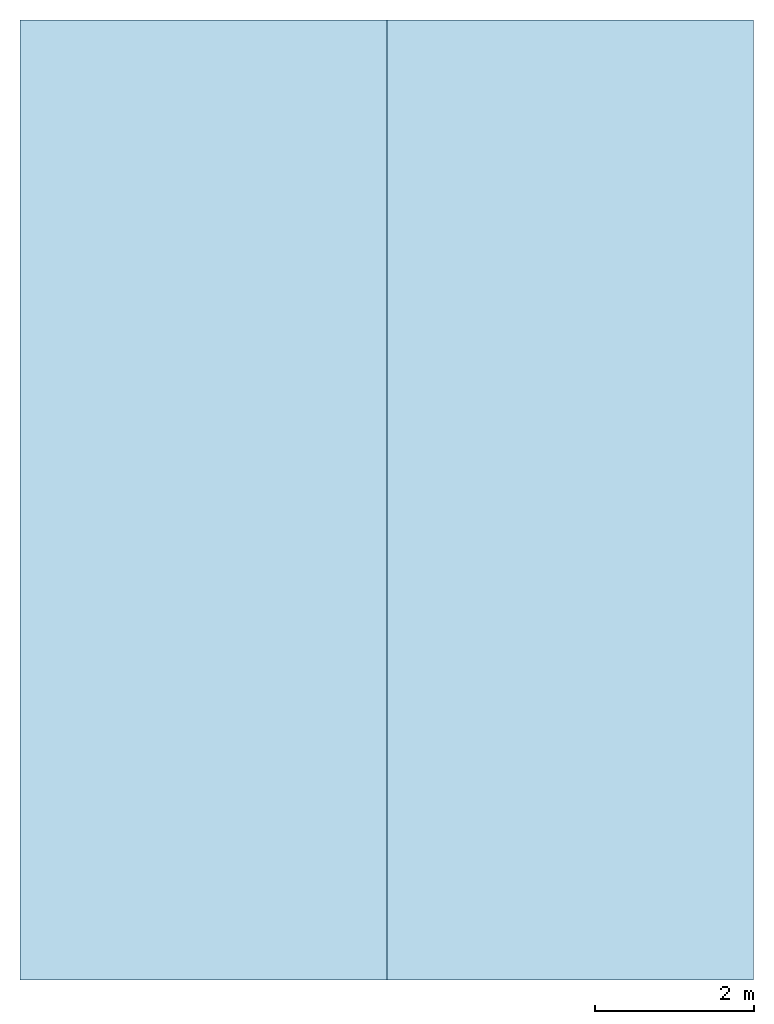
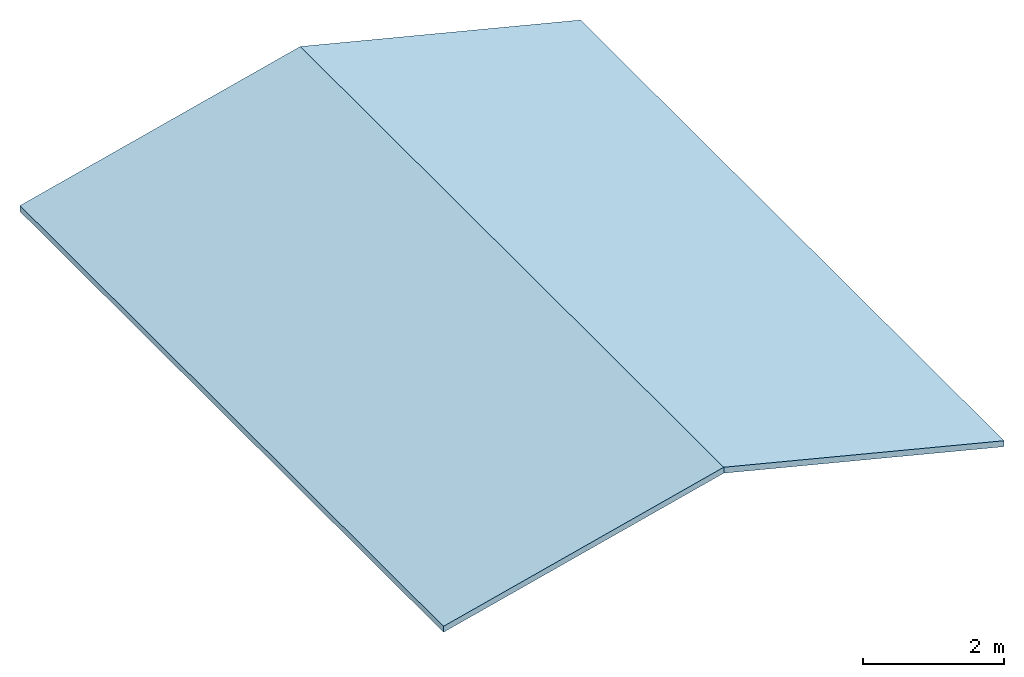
# One storey: 2 slabs, 1 element without a shape of its own.
"""IFC2X3 building model written with IfcOpenShell, lengths in metres."""

from ifc_helpers import new_model, entity, si_unit, converted_unit, derived_unit, direction, frame, frame_2d, origin, place, context, subcontext, project, spatial, rectangle, extrude, material, layer, layer_set, type_object, element, aggregate, save


model = new_model("IFC2X3")

# Units and contexts
model_context = context("Model", 3, precision=1e-05, world=origin(), true_north=direction((6.123031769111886e-17, 1.0)))
body_context = subcontext(model_context, "Body", "Model", "MODEL_VIEW")
ifc_project = project(units=[si_unit("LENGTHUNIT", "METRE"), si_unit("AREAUNIT", "SQUARE_METRE"), si_unit("VOLUMEUNIT", "CUBIC_METRE"), converted_unit("PLANEANGLEUNIT", "DEGREE", entity("IfcRatioMeasure", 0.017453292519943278), si_unit("PLANEANGLEUNIT", "RADIAN"), dimensions=[0, 0, 0, 0, 0, 0, 0]), si_unit("MASSUNIT", "GRAM", prefix="KILO"), derived_unit("MASSDENSITYUNIT", [(si_unit("MASSUNIT", "GRAM", prefix="KILO"), 1), (si_unit("LENGTHUNIT", "METRE"), -3)]), derived_unit("IONCONCENTRATIONUNIT", [(si_unit("MASSUNIT", "GRAM", prefix="KILO"), 1), (si_unit("LENGTHUNIT", "METRE"), -3)]), derived_unit("MOMENTOFINERTIAUNIT", [(si_unit("LENGTHUNIT", "METRE"), 4)]), si_unit("TIMEUNIT", "SECOND"), si_unit("FREQUENCYUNIT", "HERTZ"), si_unit("THERMODYNAMICTEMPERATUREUNIT", "DEGREE_CELSIUS"), derived_unit("THERMALTRANSMITTANCEUNIT", [(si_unit("MASSUNIT", "GRAM", prefix="KILO"), 1), (si_unit("THERMODYNAMICTEMPERATUREUNIT", "KELVIN"), -1), (si_unit("TIMEUNIT", "SECOND"), -3)]), derived_unit("THERMALCONDUCTANCEUNIT", [(si_unit("MASSUNIT", "GRAM", prefix="KILO"), 1), (si_unit("THERMODYNAMICTEMPERATUREUNIT", "KELVIN"), -1), (si_unit("TIMEUNIT", "SECOND"), -3), (si_unit("LENGTHUNIT", "METRE"), 1)]), derived_unit("VOLUMETRICFLOWRATEUNIT", [(si_unit("LENGTHUNIT", "METRE"), 3), (si_unit("TIMEUNIT", "SECOND"), -1)]), derived_unit("MASSFLOWRATEUNIT", [(si_unit("MASSUNIT", "GRAM", prefix="KILO"), 1), (si_unit("TIMEUNIT", "SECOND"), -1)]), derived_unit("ROTATIONALFREQUENCYUNIT", [(si_unit("TIMEUNIT", "SECOND"), -1)]), si_unit("ELECTRICCURRENTUNIT", "AMPERE"), si_unit("ELECTRICVOLTAGEUNIT", "VOLT"), si_unit("POWERUNIT", "WATT"), si_unit("FORCEUNIT", "NEWTON", prefix="KILO"), si_unit("ILLUMINANCEUNIT", "LUX"), si_unit("LUMINOUSFLUXUNIT", "LUMEN"), si_unit("LUMINOUSINTENSITYUNIT", "CANDELA"), derived_unit("USERDEFINED", [(si_unit("MASSUNIT", "GRAM", prefix="KILO"), -1), (si_unit("LENGTHUNIT", "METRE"), -2), (si_unit("TIMEUNIT", "SECOND"), 3), (si_unit("LUMINOUSFLUXUNIT", "LUMEN"), 1)]), derived_unit("USERDEFINED", [(si_unit("MASSUNIT", "GRAM", prefix="KILO"), 1), (si_unit("TIMEUNIT", "SECOND"), -3), (si_unit("LENGTHUNIT", "METRE"), 3), (si_unit("ELECTRICCURRENTUNIT", "AMPERE"), -2)]), derived_unit("SOUNDPOWERUNIT", [(si_unit("MASSUNIT", "GRAM", prefix="KILO"), 1), (si_unit("TIMEUNIT", "SECOND"), -3), (si_unit("LENGTHUNIT", "METRE"), 2)]), derived_unit("SOUNDPRESSUREUNIT", [(si_unit("MASSUNIT", "GRAM", prefix="KILO"), 1), (si_unit("LENGTHUNIT", "METRE"), -1), (si_unit("TIMEUNIT", "SECOND"), -2)]), derived_unit("LINEARVELOCITYUNIT", [(si_unit("LENGTHUNIT", "METRE"), 1), (si_unit("TIMEUNIT", "SECOND"), -1)]), si_unit("PRESSUREUNIT", "PASCAL"), derived_unit("USERDEFINED", [(si_unit("MASSUNIT", "GRAM", prefix="KILO"), 1), (si_unit("LENGTHUNIT", "METRE"), -2), (si_unit("TIMEUNIT", "SECOND"), -2)]), derived_unit("LINEARFORCEUNIT", [(si_unit("MASSUNIT", "GRAM", prefix="KILO"), 1), (si_unit("TIMEUNIT", "SECOND"), -2)]), derived_unit("PLANARFORCEUNIT", [(si_unit("MASSUNIT", "GRAM", prefix="KILO"), 1), (si_unit("LENGTHUNIT", "METRE"), -1), (si_unit("TIMEUNIT", "SECOND"), -2)]), derived_unit("SPECIFICHEATCAPACITYUNIT", [(si_unit("THERMODYNAMICTEMPERATUREUNIT", "KELVIN"), -1), (si_unit("LENGTHUNIT", "METRE"), 2), (si_unit("TIMEUNIT", "SECOND"), -2)]), derived_unit("HEATINGVALUEUNIT", [(si_unit("LENGTHUNIT", "METRE"), 2), (si_unit("TIMEUNIT", "SECOND"), -2)]), derived_unit("VAPORPERMEABILITYUNIT", [(si_unit("LENGTHUNIT", "METRE"), -1), (si_unit("TIMEUNIT", "SECOND"), 1)]), derived_unit("DYNAMICVISCOSITYUNIT", [(si_unit("MASSUNIT", "GRAM", prefix="KILO"), 1), (si_unit("TIMEUNIT", "SECOND"), -1), (si_unit("LENGTHUNIT", "METRE"), -1)]), derived_unit("THERMALEXPANSIONCOEFFICIENTUNIT", [(si_unit("THERMODYNAMICTEMPERATUREUNIT", "KELVIN"), -1)]), derived_unit("MODULUSOFELASTICITYUNIT", [(si_unit("MASSUNIT", "GRAM", prefix="KILO"), 1), (si_unit("LENGTHUNIT", "METRE"), -1), (si_unit("TIMEUNIT", "SECOND"), -2)]), derived_unit("ISOTHERMALMOISTURECAPACITYUNIT", [(si_unit("LENGTHUNIT", "METRE"), 3), (si_unit("MASSUNIT", "GRAM", prefix="KILO"), -1)]), derived_unit("MOISTUREDIFFUSIVITYUNIT", [(si_unit("TIMEUNIT", "SECOND"), -1), (si_unit("LENGTHUNIT", "METRE"), 2)])], contexts=[model_context])

# Site, building, storey
site_placement = place(None, frame((1.2553507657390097, -0.6266432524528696, -1.0397761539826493), z_axis=(0.0, 0.0, 1.0), x_axis=(-1.0, 0.0, 0.0)))
site = spatial("IfcSite", under=ifc_project, at=site_placement, Name="Default", CompositionType="ELEMENT")
building_placement = place(site_placement, origin())
building = spatial("IfcBuilding", under=site, at=building_placement, Name="MAISON D'HABITATION", CompositionType="ELEMENT")
storey_placement = place(building_placement, frame((0.0, 0.0, 6.06977615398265)))
storey = spatial("IfcBuildingStorey", under=building, at=storey_placement, Name="Niveau toiture etage", CompositionType="ELEMENT", Elevation=6.06977615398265)

# Roof, slabs
ifc_material = material(Name="38f2b84c_59a0_493e_94eb_272e1fd0c87f")
ifc_layer = layer(ifc_material, 0.1)
ifc_layer_set = layer_set([ifc_layer], Name="Toit de base:Toit Tuile 100mm")
roof_placement = place(storey_placement, frame((-4.879866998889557, -8.683816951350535, -2.2384603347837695)))
roof = element("IfcRoof", 1, at=roof_placement, inside=storey, material=ifc_layer_set, Name="Toit de base:Toit Tuile 100mm", ObjectType="Toit de base:Toit Tuile 100mm", ShapeType="NOTDEFINED")
slab_type = type_object("IfcSlabType", Name="Toit de base:Toit Tuile 100mm", PredefinedType="ROOF")
slab_1_placement = place(roof_placement, origin())
slab_1 = element("IfcSlab", 2, at=slab_1_placement, type_object=slab_type, material=ifc_layer_set, Name="Toit de base:Toit Tuile 100mm", ObjectType="Toit de base:Toit Tuile 100mm", PredefinedType="ROOF", context=body_context, shape_type="SweptSolid", body=[
    extrude(rectangle(XDim=4.741649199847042, YDim=12.040000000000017, at=frame_2d((0.0, 8.881784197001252e-16), x_axis=(1.0, 0.0))), frame((2.2999999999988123, 6.02000000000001, 0.5751602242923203), z_axis=(-0.24259923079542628, 0.0, 0.9701265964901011), x_axis=(0.9701265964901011, 0.0, 0.24259923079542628)), (0.24259923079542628, 0.0, 0.9701265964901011), 0.10307933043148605),
])
slab_2_placement = place(roof_placement, origin())
slab_2 = element("IfcSlab", 3, at=slab_2_placement, type_object=slab_type, material=ifc_layer_set, Name="Toit de base:Toit Tuile 100mm", ObjectType="Toit de base:Toit Tuile 100mm", PredefinedType="ROOF", context=body_context, shape_type="SweptSolid", body=[
    extrude(rectangle(XDim=4.741649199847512, YDim=12.040000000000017, at=frame_2d((4.440892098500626e-16, 8.881784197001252e-16), x_axis=(1.0, 0.0))), frame((6.899999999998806, 6.020000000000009, 0.5751602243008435), z_axis=(0.24259923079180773, 0.0, 0.9701265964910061), x_axis=(0.9701265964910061, 0.0, -0.24259923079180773)), (-0.24259923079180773, 0.0, 0.9701265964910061), 0.10307933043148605),
])
aggregate(roof, [slab_1, slab_2])

save(model, "model.ifc")
